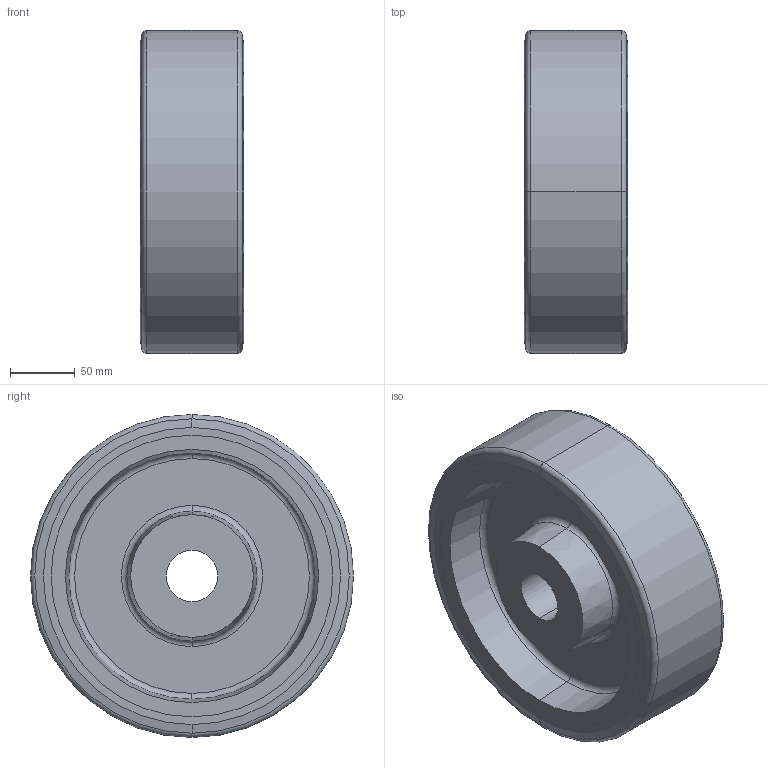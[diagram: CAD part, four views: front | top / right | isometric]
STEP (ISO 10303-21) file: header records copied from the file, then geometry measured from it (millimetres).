
FILE_DESCRIPTION (( 'STEP AP214' ), '1' );
FILE_NAME ('22887-250-B-A.step', '2024-10-28T09:26:56', ( '' ), ( '' ), 'SwSTEP 2.0', 'SolidWorks 2022', '' );
FILE_SCHEMA (( 'AUTOMOTIVE_DESIGN' ));
Length unit declared in the file: millimetre
Products named in the file (1): 22887-250-B-A
Bounding box: 80 x 250 x 250 mm (x, y, z)
Volume: 2338693.6 mm3; surface area: 218344.1 mm2
Topology: 1 solids, 1 shells, 46 faces, 92 edges, 56 vertices
Faces by surface type: cylinder 12, cone 12, torus 12, plane 10
Entity records: 1430 total; most frequent: DIRECTION 254, CARTESIAN_POINT 195, ORIENTED_EDGE 184, AXIS2_PLACEMENT_3D 115, EDGE_CURVE 92, CIRCLE 68, VERTEX_POINT 56, EDGE_LOOP 56
